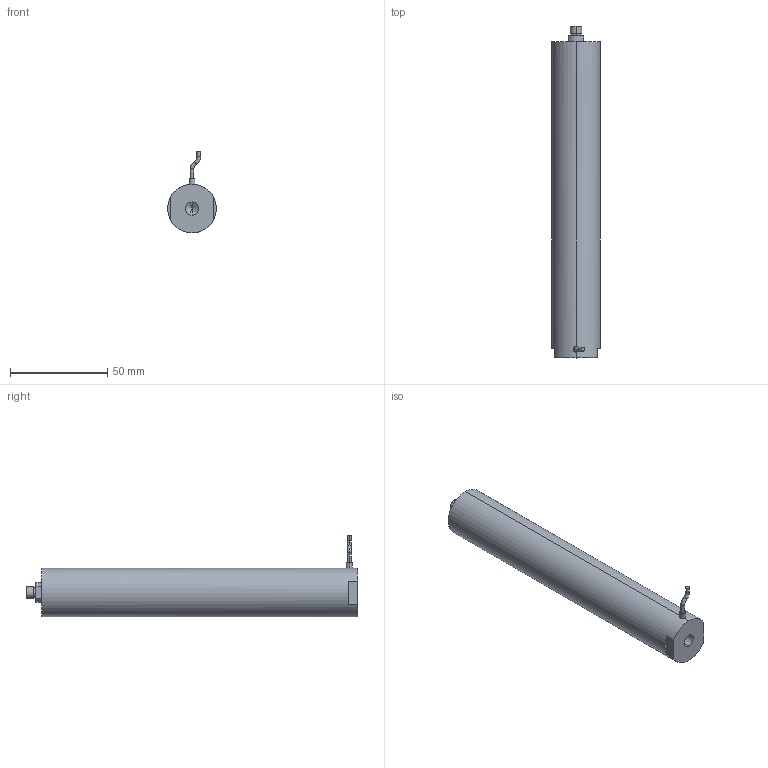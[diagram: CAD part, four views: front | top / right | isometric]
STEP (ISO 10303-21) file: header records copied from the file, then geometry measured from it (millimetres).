
FILE_DESCRIPTION (( 'STEP AP203' ), '1' );
FILE_NAME ('ﾍ篦ﾝﾎﾆﾊｽ160VS25.STEP', '2021-07-08T08:06:08', ( 'ﾎ｢ﾈ橆ﾃｻｧ' ), ( 'ﾎ｢ﾈ晥ｫﾋｾ' ), 'SwSTEP 2.0', 'SolidWorks 2016', '' );
FILE_SCHEMA (( 'CONFIG_CONTROL_DESIGN' ));
Products named in the file (1): 俋蹟恇宒160VS25
Bounding box: 25 x 171 x 42.06 mm (x, y, z)
Volume: 79884.6 mm3; surface area: 14346 mm2
Topology: 1 solids, 1 shells, 951 faces, 2579 edges, 1711 vertices
Faces by surface type: bspline 521, plane 315, cylinder 109, torus 4, cone 2
Entity records: 45291 total; most frequent: CARTESIAN_POINT 25962, ORIENTED_EDGE 5146, EDGE_CURVE 2573, DIRECTION 1993, B_SPLINE_CURVE_WITH_KNOTS 1724, VERTEX_POINT 1709, EDGE_LOOP 1036, ADVANCED_FACE 951
